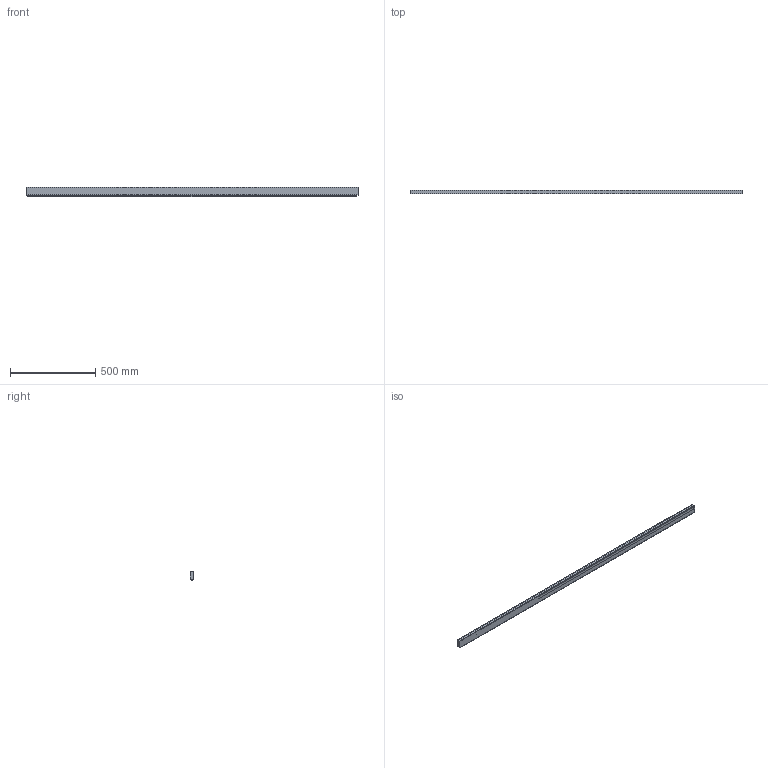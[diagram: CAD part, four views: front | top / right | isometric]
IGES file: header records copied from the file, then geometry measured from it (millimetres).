
Start section: Data from XPlus IGES,  Spatial Corp. Copyright (c) 1999-2004
Global section: file name: 115315.igs; native system:  By Spatial Corp.; preprocessor: XPlus ACIS/IGES 3.0; author: Noname; organization: Noname; date: 20130226.190259; units: millimetre
Bounding box: 1950 x 21.8 x 56.5 mm (x, y, z)
Surface area: 421300.8 mm2 (no closed solid volume)
Topology: 0 solids, 0 shells, 107 faces, 622 edges, 622 vertices
Faces by surface type: revolution 54, extrusion 53
